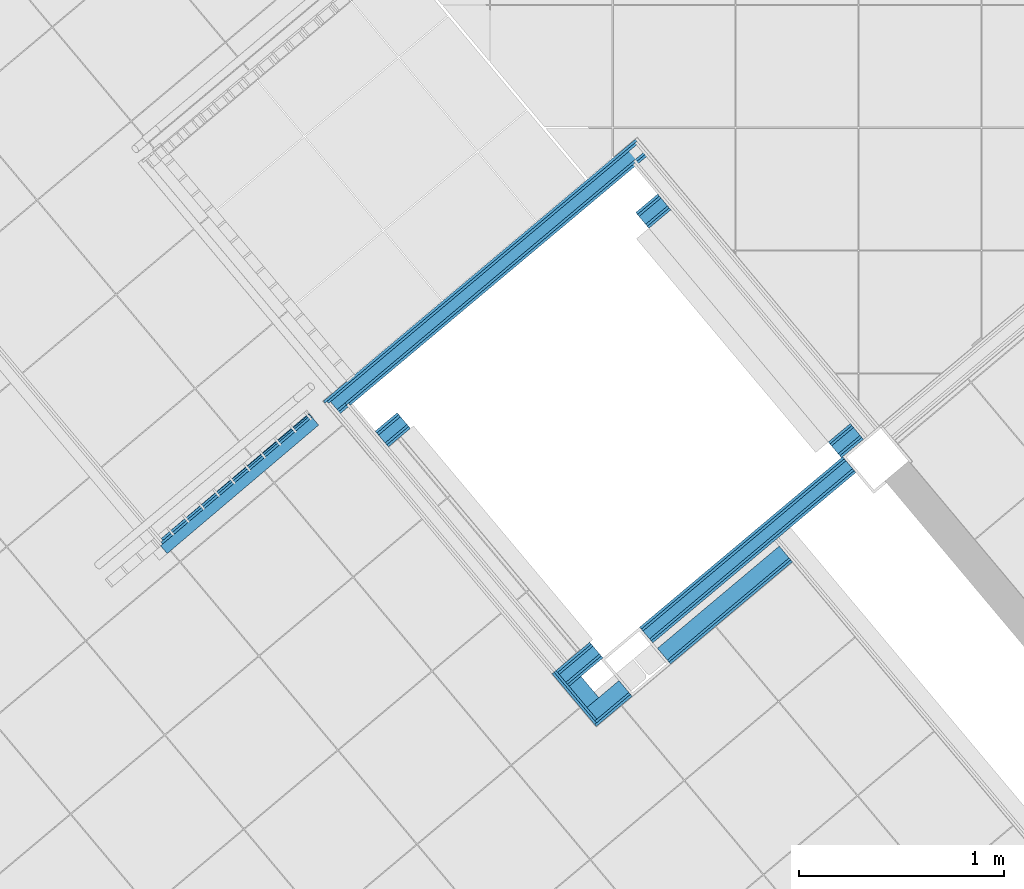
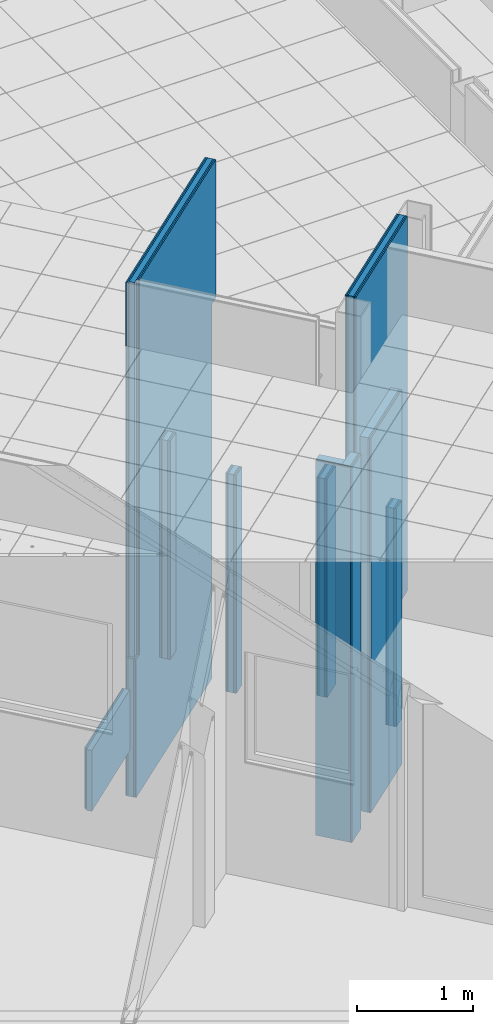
# One storey, part 60 of 321: 42 building element parts, 10 elements without a shape of their own.
"""IFC2X3 building model written with IfcOpenShell, lengths in millimetres."""

from ifc_helpers import new_model, entity, si_unit, converted_unit, derived_unit, money_unit, direction, frame, origin_with_axes, place, context, subcontext, project, spatial, faceted_brep, material, type_object, element, aggregate, save


model = new_model("IFC2X3")

# Units and contexts
model_context = context("Model", 3, precision=0.01, world=origin_with_axes(), true_north=direction((0.0, 1.0)))
plan_context = context("Plan", 3, precision=0.01, world=origin_with_axes(), true_north=direction((0.0, 1.0)))
body_context = subcontext(model_context, "Body", "Model", "MODEL_VIEW")
ifc_project = project(units=[si_unit("LENGTHUNIT", "METRE", prefix="MILLI"), si_unit("AREAUNIT", "SQUARE_METRE"), si_unit("VOLUMEUNIT", "CUBIC_METRE"), converted_unit("PLANEANGLEUNIT", "DEGREE", entity("IfcPlaneAngleMeasure", 0.0174532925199), si_unit("PLANEANGLEUNIT", "RADIAN"), dimensions=[0, 0, 0, 0, 0, 0, 0]), money_unit("EUR"), converted_unit("TIMEUNIT", "Year", entity("IfcTimeMeasure", 31556926.0), si_unit("TIMEUNIT", "SECOND"), dimensions=[0, 0, 1, 0, 0, 0, 0]), si_unit("MASSUNIT", "GRAM", prefix="KILO"), si_unit("THERMODYNAMICTEMPERATUREUNIT", "DEGREE_CELSIUS"), si_unit("LUMINOUSINTENSITYUNIT", "LUMEN"), si_unit("ENERGYUNIT", "JOULE", prefix="MEGA"), derived_unit("THERMALCONDUCTANCEUNIT", [(si_unit("POWERUNIT", "WATT"), 1), (si_unit("LENGTHUNIT", "METRE"), -1), (si_unit("THERMODYNAMICTEMPERATUREUNIT", "KELVIN"), -1)]), derived_unit("SPECIFICHEATCAPACITYUNIT", [(si_unit("ENERGYUNIT", "JOULE"), 1), (si_unit("MASSUNIT", "GRAM", prefix="KILO"), -1), (si_unit("THERMODYNAMICTEMPERATUREUNIT", "KELVIN"), -1)]), derived_unit("MASSDENSITYUNIT", [(si_unit("MASSUNIT", "GRAM", prefix="KILO"), 1), (si_unit("VOLUMEUNIT", "CUBIC_METRE"), -1)])], contexts=[model_context, plan_context])

# Site, building, storey
site_placement = place(None, origin_with_axes())
site = spatial("IfcSite", under=ifc_project, at=site_placement, Name="Fortuinstraat Woensdrecht", CompositionType="ELEMENT")
building_placement = place(site_placement, origin_with_axes())
building = spatial("IfcBuilding", under=site, at=building_placement, Name="IKC Fortuna", CompositionType="ELEMENT")
storey_placement = place(building_placement, frame((0.0, 0.0, 4000.0), z_axis=(0.0, 0.0, 1.0), x_axis=(1.0, 0.0, 0.0)))
storey = spatial("IfcBuildingStorey", under=building, at=storey_placement, Name="01 eerste verdieping", CompositionType="ELEMENT", Elevation=4000.0)

# Wall, building element parts
wall_type_1 = type_object("IfcWallType", Name="MS100 2.50.2A 100", PredefinedType="NOTDEFINED")
wall_1_placement = place(storey_placement, frame((22230.515587, 1704.20917847, -90.0), z_axis=(0.0, 0.0, 1.0), x_axis=(-0.766044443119, -0.642787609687, 0.0)))
wall_1 = element("IfcWall", 1, at=wall_1_placement, inside=storey, type_object=wall_type_1, Name="22_Wand_Binnenwand")
ifc_material_1 = material(Name="Gipsplaat")
building_element_part_1_placement = place(wall_1_placement, origin_with_axes())
building_element_part_1 = element("IfcBuildingElementPart", 2, at=building_element_part_1_placement, material=ifc_material_1, Name="Gipsplaat", context=body_context, shape_type="Brep", body=[
    faceted_brep([(240.007477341, 0.0, 0.0), (240.007477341, -12.5, 0.0), (100.0, -12.5, 0.0), (100.0, 0.0, 0.0), (240.007477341, 0.0, 2290.0), (240.007477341, -12.5, 2290.0), (100.0, -12.5, 2290.0), (100.0, 0.0, 2290.0)], [[[0, 1, 2, 3]], [[0, 4, 5, 1]], [[1, 5, 6, 2]], [[3, 2, 6, 7]], [[4, 0, 3, 7]], [[5, 4, 7, 6]]]),
])
building_element_part_2_placement = place(wall_1_placement, origin_with_axes())
building_element_part_2 = element("IfcBuildingElementPart", 3, at=building_element_part_2_placement, material=ifc_material_1, Name="Gipsplaat", context=body_context, shape_type="Brep", body=[
    faceted_brep([(240.007477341, -12.5, 0.0), (240.007477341, -25.0, 0.0), (100.0, -25.0, 0.0), (100.0, -12.5, 0.0), (240.007477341, -12.5, 2290.0), (240.007477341, -25.0, 2290.0), (100.0, -25.0, 2290.0), (100.0, -12.5, 2290.0)], [[[0, 1, 2, 3]], [[0, 4, 5, 1]], [[1, 5, 6, 2]], [[3, 2, 6, 7]], [[4, 0, 3, 7]], [[5, 4, 7, 6]]]),
])
ifc_material_2 = material(Name="Isolatie - Steenwol LSW")
building_element_part_3_placement = place(wall_1_placement, origin_with_axes())
building_element_part_3 = element("IfcBuildingElementPart", 4, at=building_element_part_3_placement, material=ifc_material_2, Name="Isolatie - Steenwol LSW", context=body_context, shape_type="Brep", body=[
    faceted_brep([(240.007477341, -25.0, 0.0), (240.007477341, -75.0, 0.0), (100.0, -75.0, 0.0), (100.0, -25.0, 0.0), (240.007477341, -25.0, 2290.0), (240.007477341, -75.0, 2290.0), (100.0, -75.0, 2290.0), (100.0, -25.0, 2290.0)], [[[0, 1, 2, 3]], [[0, 4, 5, 1]], [[1, 5, 6, 2]], [[3, 2, 6, 7]], [[4, 0, 3, 7]], [[5, 4, 7, 6]]]),
])
building_element_part_4_placement = place(wall_1_placement, origin_with_axes())
building_element_part_4 = element("IfcBuildingElementPart", 5, at=building_element_part_4_placement, material=ifc_material_1, Name="Gipsplaat", context=body_context, shape_type="Brep", body=[
    faceted_brep([(240.007477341, -75.0, 0.0), (240.007477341, -87.5, 0.0), (100.0, -87.5, 0.0), (100.0, -75.0, 0.0), (240.007477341, -75.0, 2290.0), (240.007477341, -87.5, 2290.0), (100.0, -87.5, 2290.0), (100.0, -75.0, 2290.0)], [[[0, 1, 2, 3]], [[0, 4, 5, 1]], [[1, 5, 6, 2]], [[3, 2, 6, 7]], [[4, 0, 3, 7]], [[5, 4, 7, 6]]]),
])
building_element_part_5_placement = place(wall_1_placement, origin_with_axes())
building_element_part_5 = element("IfcBuildingElementPart", 6, at=building_element_part_5_placement, material=ifc_material_1, Name="Gipsplaat", context=body_context, shape_type="Brep", body=[
    faceted_brep([(240.007477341, -87.5, 0.0), (240.007477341, -100.0, 0.0), (100.0, -100.0, 0.0), (100.0, -87.5, 0.0), (240.007477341, -87.5, 2290.0), (240.007477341, -100.0, 2290.0), (100.0, -100.0, 2290.0), (100.0, -87.5, 2290.0)], [[[0, 1, 2, 3]], [[0, 4, 5, 1]], [[1, 5, 6, 2]], [[3, 2, 6, 7]], [[4, 0, 3, 7]], [[5, 4, 7, 6]]]),
])
aggregate(wall_1, [building_element_part_1, building_element_part_2, building_element_part_3, building_element_part_4, building_element_part_5])

wall_2_placement = place(storey_placement, frame((21989.3627054, 1991.60399148, -90.0), z_axis=(0.0, 0.0, 1.0), x_axis=(-0.766044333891, -0.642787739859, 0.0)))
wall_2 = element("IfcWall", 7, at=wall_2_placement, inside=storey, type_object=wall_type_1, Name="22_Wand_Binnenwand")
building_element_part_6_placement = place(wall_2_placement, origin_with_axes())
building_element_part_6 = element("IfcBuildingElementPart", 8, at=building_element_part_6_placement, material=ifc_material_1, Name="Gipsplaat", context=body_context, shape_type="Brep", body=[
    faceted_brep([(1912.50013237, 87.5, 5380.0), (1912.50013368, 99.9999999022, 5380.0), (0.0, 99.9999977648, 5380.0), (0.0, 87.5, 5380.0), (1912.50013368, 99.9999977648, 1450.0), (1912.50013237, 87.5, 1450.0), (2000.00013368, 99.9999977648, 1450.0), (2000.00012321, 99.9999977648, 0.0), (100.000016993, 99.9999998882, 0.0), (100.000016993, 99.9999977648, 3930.0), (1.69928071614e-05, 99.9999977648, 3930.0), (1.48687071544e-05, 87.5, 3930.0), (100.000014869, 87.5, 3930.0), (100.000014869, 87.5, 0.0), (2000.00012321, 87.5, 0.0), (2000.00013237, 87.5, 1450.0)], [[[0, 1, 2, 3]], [[4, 1, 0, 5]], [[4, 6, 7, 8, 9, 10, 2, 1]], [[10, 11, 3, 2]], [[5, 0, 3, 11, 12, 13, 14, 15]], [[4, 5, 15, 6]], [[6, 15, 14, 7]], [[13, 8, 7, 14]], [[9, 8, 13, 12]], [[10, 9, 12, 11]]]),
])
building_element_part_7_placement = place(wall_2_placement, origin_with_axes())
building_element_part_7 = element("IfcBuildingElementPart", 9, at=building_element_part_7_placement, material=ifc_material_1, Name="Gipsplaat", context=body_context, shape_type="Brep", body=[
    faceted_brep([(1925.00013106, 75.0000001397, 5380.0), (1925.00013237, 87.5, 5380.0), (0.0, 87.5, 5380.0), (0.0, 75.0000037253, 5380.0), (1925.00013237, 87.5, 1450.0), (1925.00013106, 75.0000037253, 1450.0), (2000.00013237, 87.5, 1450.0), (2000.00012321, 87.5, 0.0), (87.5000148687, 87.5, 0.0), (87.5000148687, 87.5, 3930.0), (1.48687071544e-05, 87.5, 3930.0), (1.27446071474e-05, 75.0000027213, 3930.0), (87.5000127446, 75.0000037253, 3930.0), (87.5000127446, 75.000000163, 0.0), (2000.00012321, 75.0000037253, 0.0), (2000.00013106, 75.0000027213, 1450.0)], [[[0, 1, 2, 3]], [[4, 1, 0, 5]], [[4, 6, 7, 8, 9, 10, 2, 1]], [[10, 11, 3, 2]], [[5, 0, 3, 11, 12, 13, 14, 15]], [[4, 5, 15, 6]], [[6, 15, 14, 7]], [[13, 8, 7, 14]], [[9, 8, 13, 12]], [[10, 9, 12, 11]]]),
])
building_element_part_8_placement = place(wall_2_placement, origin_with_axes())
building_element_part_8 = element("IfcBuildingElementPart", 10, at=building_element_part_8_placement, material=ifc_material_2, Name="Isolatie - Steenwol LSW", context=body_context, shape_type="Brep", body=[
    faceted_brep([(1975.00012583, 24.9999999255, 5380.0), (1975.00013106, 75.0000000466, 5380.0), (0.0, 75.0000037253, 5380.0), (0.0, 24.9999940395, 5380.0), (1975.00013106, 75.0000037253, 1450.0), (1975.00012583, 24.9999940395, 1450.0), (2000.00013106, 75.0000027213, 1450.0), (2000.00012321, 75.0000037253, 0.0), (75.0000127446, 75.0000001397, 0.0), (75.0000127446, 75.0000037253, 3930.0), (1.27446071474e-05, 75.0000027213, 3930.0), (4.24820001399e-06, 24.999995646, 3930.0), (75.0000042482, 24.9999940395, 3930.0), (75.0000042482, 24.9999997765, 0.0), (2000.00012321, 24.9999940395, 0.0), (2000.00012583, 24.999995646, 1450.0)], [[[0, 1, 2, 3]], [[4, 1, 0, 5]], [[4, 6, 7, 8, 9, 10, 2, 1]], [[10, 11, 3, 2]], [[5, 0, 3, 11, 12, 13, 14, 15]], [[4, 5, 15, 6]], [[6, 15, 14, 7]], [[13, 8, 7, 14]], [[9, 8, 13, 12]], [[10, 9, 12, 11]]]),
])
building_element_part_9_placement = place(wall_2_placement, origin_with_axes())
building_element_part_9 = element("IfcBuildingElementPart", 11, at=building_element_part_9_placement, material=ifc_material_1, Name="Gipsplaat", context=body_context, shape_type="Brep", body=[
    faceted_brep([(1987.50012452, 12.5, 5380.0), (1987.50012583, 24.9999999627, 5380.0), (0.0, 24.9999940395, 5380.0), (0.0, 12.5, 5380.0), (1987.50012583, 24.9999940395, 1450.0), (1987.50012452, 12.5, 1450.0), (2000.00012583, 24.999995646, 1450.0), (2000.00012321, 24.9999940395, 0.0), (25.0000042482, 24.9999999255, 0.0), (25.0000042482, 24.9999940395, 3930.0), (4.24820001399e-06, 24.999995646, 3930.0), (2.12410000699e-06, 12.5, 3930.0), (25.0000021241, 12.5, 3930.0), (25.0000021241, 12.5, 0.0), (2000.00012321, 12.5, 0.0), (2000.00012452, 12.5, 1450.0)], [[[0, 1, 2, 3]], [[4, 1, 0, 5]], [[4, 6, 7, 8, 9, 10, 2, 1]], [[10, 11, 3, 2]], [[5, 0, 3, 11, 12, 13, 14, 15]], [[6, 4, 5, 15]], [[6, 15, 14, 7]], [[13, 8, 7, 14]], [[9, 8, 13, 12]], [[10, 9, 12, 11]]]),
])
building_element_part_10_placement = place(wall_2_placement, origin_with_axes())
building_element_part_10 = element("IfcBuildingElementPart", 12, at=building_element_part_10_placement, material=ifc_material_1, Name="Gipsplaat", context=body_context, shape_type="Brep", body=[
    faceted_brep([(12.5000021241, 12.5, 0.0), (12.5000021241, 12.5, 3930.0), (2.12410355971e-06, 12.5, 3930.0), (0.0, 12.5, 5380.0), (2000.00012452, 12.5, 5380.0), (2000.00012321, 12.5, 0.0), (12.5, 0.0, 0.0), (12.5, 0.0, 3930.0), (0.0, 0.0, 3930.0), (0.0, 0.0, 5380.0), (2000.00012321, 0.0, 5380.0), (2000.00012321, 0.0, 1450.0), (2000.00012321, 0.0, 0.0)], [[[0, 1, 2, 3, 4, 5]], [[1, 0, 6, 7]], [[8, 2, 1, 7]], [[2, 8, 9, 3]], [[4, 3, 9, 10]], [[10, 11, 12, 5, 4]], [[6, 0, 5, 12]], [[7, 6, 12, 11, 10, 9, 8]]]),
])
aggregate(wall_2, [building_element_part_6, building_element_part_7, building_element_part_8, building_element_part_9, building_element_part_10])

wall_3_placement = place(storey_placement, frame((23105.9923114, 660.856646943, -90.0), z_axis=(0.0, 0.0, 1.0), x_axis=(-0.766044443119, -0.642787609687, 0.0)))
wall_3 = element("IfcWall", 13, at=wall_3_placement, inside=storey, type_object=wall_type_1, Name="22_Wand_Binnenwand")
building_element_part_11_placement = place(wall_3_placement, origin_with_axes())
building_element_part_11 = element("IfcBuildingElementPart", 14, at=building_element_part_11_placement, material=ifc_material_1, Name="Gipsplaat", context=body_context, shape_type="Brep", body=[
    faceted_brep([(240.007477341, 87.5, 2290.0), (240.007477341, 100.0, 2290.0), (100.0, 100.0, 2290.0), (100.0, 87.5, 2290.0), (240.007477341, 87.5, 0.0), (240.007477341, 100.0, 0.0), (100.0, 100.0, 0.0), (100.0, 87.5, 0.0)], [[[0, 1, 2, 3]], [[0, 4, 5, 1]], [[1, 5, 6, 2]], [[3, 2, 6, 7]], [[4, 0, 3, 7]], [[5, 4, 7, 6]]]),
])
building_element_part_12_placement = place(wall_3_placement, origin_with_axes())
building_element_part_12 = element("IfcBuildingElementPart", 15, at=building_element_part_12_placement, material=ifc_material_1, Name="Gipsplaat", context=body_context, shape_type="Brep", body=[
    faceted_brep([(240.007477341, 75.0, 2290.0), (240.007477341, 87.5, 2290.0), (100.0, 87.5, 2290.0), (100.0, 75.0, 2290.0), (240.007477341, 75.0, 0.0), (240.007477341, 87.5, 0.0), (100.0, 87.5, 0.0), (100.0, 75.0, 0.0)], [[[0, 1, 2, 3]], [[0, 4, 5, 1]], [[1, 5, 6, 2]], [[3, 2, 6, 7]], [[4, 0, 3, 7]], [[5, 4, 7, 6]]]),
])
building_element_part_13_placement = place(wall_3_placement, origin_with_axes())
building_element_part_13 = element("IfcBuildingElementPart", 16, at=building_element_part_13_placement, material=ifc_material_2, Name="Isolatie - Steenwol LSW", context=body_context, shape_type="Brep", body=[
    faceted_brep([(240.007477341, 25.0, 2290.0), (240.007477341, 75.0, 2290.0), (100.0, 75.0, 2290.0), (100.0, 25.0, 2290.0), (240.007477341, 25.0, 0.0), (240.007477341, 75.0, 0.0), (100.0, 75.0, 0.0), (100.0, 25.0, 0.0)], [[[0, 1, 2, 3]], [[0, 4, 5, 1]], [[1, 5, 6, 2]], [[3, 2, 6, 7]], [[4, 0, 3, 7]], [[5, 4, 7, 6]]]),
])
building_element_part_14_placement = place(wall_3_placement, origin_with_axes())
building_element_part_14 = element("IfcBuildingElementPart", 17, at=building_element_part_14_placement, material=ifc_material_1, Name="Gipsplaat", context=body_context, shape_type="Brep", body=[
    faceted_brep([(240.007477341, 12.5, 2290.0), (240.007477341, 25.0, 2290.0), (100.0, 25.0, 2290.0), (100.0, 12.5, 2290.0), (240.007477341, 12.5, 0.0), (240.007477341, 25.0, 0.0), (100.0, 25.0, 0.0), (100.0, 12.5, 0.0)], [[[0, 1, 2, 3]], [[0, 4, 5, 1]], [[1, 5, 6, 2]], [[3, 2, 6, 7]], [[4, 0, 3, 7]], [[5, 4, 7, 6]]]),
])
building_element_part_15_placement = place(wall_3_placement, origin_with_axes())
building_element_part_15 = element("IfcBuildingElementPart", 18, at=building_element_part_15_placement, material=ifc_material_1, Name="Gipsplaat", context=body_context, shape_type="Brep", body=[
    faceted_brep([(240.007477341, 0.0, 2290.0), (240.007477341, 12.5, 2290.0), (100.0, 12.5, 2290.0), (100.0, 0.0, 2290.0), (240.007477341, 0.0, 0.0), (240.007477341, 12.5, 0.0), (100.0, 12.5, 0.0), (100.0, 0.0, 0.0)], [[[0, 1, 2, 3]], [[0, 4, 5, 1]], [[1, 5, 6, 2]], [[3, 2, 6, 7]], [[4, 0, 3, 7]], [[5, 4, 7, 6]]]),
])
aggregate(wall_3, [building_element_part_11, building_element_part_12, building_element_part_13, building_element_part_14, building_element_part_15])

wall_4_placement = place(storey_placement, frame((22041.6239314, -445.035849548, 1360.0), z_axis=(0.0, 0.0, 1.0), x_axis=(0.766044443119, 0.642787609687, 0.0)))
wall_4 = element("IfcWall", 19, at=wall_4_placement, inside=storey, type_object=wall_type_1, Name="22_Wand_Binnenwand")
building_element_part_16_placement = place(wall_4_placement, origin_with_axes())
building_element_part_16 = element("IfcBuildingElementPart", 20, at=building_element_part_16_placement, material=ifc_material_1, Name="Gipsplaat", context=body_context, shape_type="Brep", body=[
    faceted_brep([(1293.70006611, 50.0, 3930.0), (1293.70006611, 62.5, 3930.0), (0.0, 62.5, 3930.0), (0.0, 50.0, 3930.0), (1293.70006611, 50.0, 0.0), (1293.70006611, 62.5, 0.0), (0.0, 62.5, 0.0), (0.0, 50.0, 0.0)], [[[0, 1, 2, 3]], [[0, 4, 5, 1]], [[1, 5, 6, 2]], [[3, 2, 6, 7]], [[4, 0, 3, 7]], [[5, 4, 7, 6]]]),
])
building_element_part_17_placement = place(wall_4_placement, origin_with_axes())
building_element_part_17 = element("IfcBuildingElementPart", 21, at=building_element_part_17_placement, material=ifc_material_1, Name="Gipsplaat", context=body_context, shape_type="Brep", body=[
    faceted_brep([(1293.70006611, 37.5, 3930.0), (1293.70006611, 50.0, 3930.0), (0.0, 50.0, 3930.0), (0.0, 37.5, 3930.0), (1293.70006611, 37.5, 0.0), (1293.70006611, 50.0, 0.0), (0.0, 50.0, 0.0), (0.0, 37.5, 0.0)], [[[0, 1, 2, 3]], [[0, 4, 5, 1]], [[1, 5, 6, 2]], [[3, 2, 6, 7]], [[4, 0, 3, 7]], [[5, 4, 7, 6]]]),
])
building_element_part_18_placement = place(wall_4_placement, origin_with_axes())
building_element_part_18 = element("IfcBuildingElementPart", 22, at=building_element_part_18_placement, material=ifc_material_2, Name="Isolatie - Steenwol LSW", context=body_context, shape_type="Brep", body=[
    faceted_brep([(1293.70006611, -12.5, 3930.0), (1293.70006611, 37.5, 3930.0), (0.0, 37.5, 3930.0), (0.0, -12.5, 3930.0), (1293.70006611, -12.5, 0.0), (1293.70006611, 37.5, 0.0), (0.0, 37.5, 0.0), (0.0, -12.5, 0.0)], [[[0, 1, 2, 3]], [[0, 4, 5, 1]], [[1, 5, 6, 2]], [[3, 2, 6, 7]], [[4, 0, 3, 7]], [[5, 4, 7, 6]]]),
])
building_element_part_19_placement = place(wall_4_placement, origin_with_axes())
building_element_part_19 = element("IfcBuildingElementPart", 23, at=building_element_part_19_placement, material=ifc_material_1, Name="Gipsplaat", context=body_context, shape_type="Brep", body=[
    faceted_brep([(1293.70006611, -25.0, 3930.0), (1293.70006611, -12.5, 3930.0), (0.0, -12.5, 3930.0), (0.0, -25.0, 3930.0), (1293.70006611, -25.0, 0.0), (1293.70006611, -12.5, 0.0), (0.0, -12.5, 0.0), (0.0, -25.0, 0.0)], [[[0, 1, 2, 3]], [[0, 4, 5, 1]], [[1, 5, 6, 2]], [[3, 2, 6, 7]], [[4, 0, 3, 7]], [[5, 4, 7, 6]]]),
])
building_element_part_20_placement = place(wall_4_placement, origin_with_axes())
building_element_part_20 = element("IfcBuildingElementPart", 24, at=building_element_part_20_placement, material=ifc_material_1, Name="Gipsplaat", context=body_context, shape_type="Brep", body=[
    faceted_brep([(1293.70006611, -37.5, 3930.0), (1293.70006611, -25.0, 3930.0), (0.0, -25.0, 3930.0), (0.0, -37.5, 3930.0), (1293.70006611, -37.5, 0.0), (1293.70006611, -25.0, 0.0), (0.0, -25.0, 0.0), (0.0, -37.5, 0.0)], [[[0, 1, 2, 3]], [[0, 4, 5, 1]], [[1, 5, 6, 2]], [[3, 2, 6, 7]], [[4, 0, 3, 7]], [[5, 4, 7, 6]]]),
])
aggregate(wall_4, [building_element_part_16, building_element_part_17, building_element_part_18, building_element_part_19, building_element_part_20])

wall_5_placement = place(storey_placement, frame((20698.426631, 418.63388862, 1360.0), z_axis=(0.0, 0.0, 1.0), x_axis=(0.766044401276, 0.642787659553, 0.0)))
wall_5 = element("IfcWall", 25, at=wall_5_placement, inside=storey, type_object=wall_type_1, Name="22_Wand_Binnenwand")
building_element_part_21_placement = place(wall_5_placement, origin_with_axes())
building_element_part_21 = element("IfcBuildingElementPart", 26, at=building_element_part_21_placement, material=ifc_material_1, Name="Gipsplaat", context=body_context, shape_type="Brep", body=[
    faceted_brep([(239.992621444, 87.5, 2290.0), (239.992621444, 100.0, 2290.0), (100.000000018, 100.0, 2290.0), (100.000000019, 87.5, 2290.0), (239.992621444, 87.5, 0.0), (239.992621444, 100.0, 0.0), (100.000000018, 100.0, 0.0), (100.000000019, 87.5, 0.0)], [[[0, 1, 2, 3]], [[0, 4, 5, 1]], [[1, 5, 6, 2]], [[3, 2, 6, 7]], [[4, 0, 3, 7]], [[5, 4, 7, 6]]]),
])
building_element_part_22_placement = place(wall_5_placement, origin_with_axes())
building_element_part_22 = element("IfcBuildingElementPart", 27, at=building_element_part_22_placement, material=ifc_material_1, Name="Gipsplaat", context=body_context, shape_type="Brep", body=[
    faceted_brep([(239.992621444, 75.0, 2290.0), (239.992621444, 87.5, 2290.0), (100.000000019, 87.5, 2290.0), (100.00000002, 75.0, 2290.0), (239.992621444, 75.0, 0.0), (239.992621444, 87.5, 0.0), (100.000000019, 87.5, 0.0), (100.00000002, 75.0, 0.0)], [[[0, 1, 2, 3]], [[0, 4, 5, 1]], [[1, 5, 6, 2]], [[3, 2, 6, 7]], [[4, 0, 3, 7]], [[5, 4, 7, 6]]]),
])
building_element_part_23_placement = place(wall_5_placement, origin_with_axes())
building_element_part_23 = element("IfcBuildingElementPart", 28, at=building_element_part_23_placement, material=ifc_material_2, Name="Isolatie - Steenwol LSW", context=body_context, shape_type="Brep", body=[
    faceted_brep([(239.992621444, 25.0, 2290.0), (239.992621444, 75.0, 2290.0), (100.00000002, 75.0, 2290.0), (100.000000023, 25.0, 2290.0), (239.992621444, 25.0, 0.0), (239.992621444, 75.0, 0.0), (100.00000002, 75.0, 0.0), (100.000000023, 25.0, 0.0)], [[[0, 1, 2, 3]], [[0, 4, 5, 1]], [[1, 5, 6, 2]], [[3, 2, 6, 7]], [[4, 0, 3, 7]], [[5, 4, 7, 6]]]),
])
building_element_part_24_placement = place(wall_5_placement, origin_with_axes())
building_element_part_24 = element("IfcBuildingElementPart", 29, at=building_element_part_24_placement, material=ifc_material_1, Name="Gipsplaat", context=body_context, shape_type="Brep", body=[
    faceted_brep([(239.992621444, 12.5, 2290.0), (239.992621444, 25.0, 2290.0), (100.000000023, 25.0, 2290.0), (100.000000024, 12.5, 2290.0), (239.992621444, 12.5, 0.0), (239.992621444, 25.0, 0.0), (100.000000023, 25.0, 0.0), (100.000000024, 12.5, 0.0)], [[[0, 1, 2, 3]], [[0, 4, 5, 1]], [[1, 5, 6, 2]], [[3, 2, 6, 7]], [[4, 0, 3, 7]], [[5, 4, 7, 6]]]),
])
building_element_part_25_placement = place(wall_5_placement, origin_with_axes())
building_element_part_25 = element("IfcBuildingElementPart", 30, at=building_element_part_25_placement, material=ifc_material_1, Name="Gipsplaat", context=body_context, shape_type="Brep", body=[
    faceted_brep([(239.992621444, 0.0, 2290.0), (239.992621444, 12.5, 2290.0), (100.000000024, 12.5, 2290.0), (100.000000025, 0.0, 2290.0), (239.992621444, 0.0, 0.0), (239.992621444, 12.5, 0.0), (100.000000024, 12.5, 0.0), (100.000000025, 0.0, 0.0)], [[[0, 1, 2, 3]], [[0, 4, 5, 1]], [[1, 5, 6, 2]], [[3, 2, 6, 7]], [[4, 0, 3, 7]], [[5, 4, 7, 6]]]),
])
aggregate(wall_5, [building_element_part_21, building_element_part_22, building_element_part_23, building_element_part_24, building_element_part_25])

wall_6_placement = place(storey_placement, frame((21573.9034244, -624.718587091, 1360.0), z_axis=(0.0, 0.0, 1.0), x_axis=(0.766044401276, 0.642787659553, 0.0)))
wall_6 = element("IfcWall", 31, at=wall_6_placement, inside=storey, type_object=wall_type_1, Name="22_Wand_Binnenwand")
building_element_part_26_placement = place(wall_6_placement, origin_with_axes())
building_element_part_26 = element("IfcBuildingElementPart", 32, at=building_element_part_26_placement, material=ifc_material_1, Name="Gipsplaat", context=body_context, shape_type="Brep", body=[
    faceted_brep([(25.0000000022, -7.67350627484e-08, 2290.0), (25.0001674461, -12.5, 2290.0), (239.992532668, -12.5, 2290.0), (239.992532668, 0.0, 2290.0), (25.0001674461, -12.5, 0.0), (25.0000000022, -7.67350627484e-08, 0.0), (239.992532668, -12.5, 0.0), (239.992532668, 0.0, 0.0)], [[[0, 1, 2, 3]], [[4, 1, 0, 5]], [[1, 4, 6, 2]], [[2, 6, 7, 3]], [[5, 0, 3, 7]], [[4, 5, 7, 6]]]),
])
building_element_part_27_placement = place(wall_6_placement, origin_with_axes())
building_element_part_27 = element("IfcBuildingElementPart", 33, at=building_element_part_27_placement, material=ifc_material_1, Name="Gipsplaat", context=body_context, shape_type="Brep", body=[
    faceted_brep([(25.0001674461, -12.5, 2290.0), (25.0003348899, -25.0, 2290.0), (239.992532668, -25.0, 2290.0), (239.992532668, -12.5, 2290.0), (25.0003348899, -25.0, 0.0), (25.0001674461, -12.5, 0.0), (239.992532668, -25.0, 0.0), (239.992532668, -12.5, 0.0)], [[[0, 1, 2, 3]], [[4, 1, 0, 5]], [[1, 4, 6, 2]], [[2, 6, 7, 3]], [[5, 0, 3, 7]], [[4, 5, 7, 6]]]),
])
building_element_part_28_placement = place(wall_6_placement, origin_with_axes())
building_element_part_28 = element("IfcBuildingElementPart", 34, at=building_element_part_28_placement, material=ifc_material_2, Name="Isolatie - Steenwol LSW", context=body_context, shape_type="Brep", body=[
    faceted_brep([(25.0003348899, -25.0, 2290.0), (25.0010046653, -75.0, 2290.0), (239.992532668, -75.0, 2290.0), (239.992532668, -25.0, 2290.0), (25.0010046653, -75.0, 0.0), (25.0003348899, -25.0, 0.0), (239.992532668, -75.0, 0.0), (239.992532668, -25.0, 0.0)], [[[0, 1, 2, 3]], [[4, 1, 0, 5]], [[1, 4, 6, 2]], [[2, 6, 7, 3]], [[5, 0, 3, 7]], [[4, 5, 7, 6]]]),
])
building_element_part_29_placement = place(wall_6_placement, origin_with_axes())
building_element_part_29 = element("IfcBuildingElementPart", 35, at=building_element_part_29_placement, material=ifc_material_1, Name="Gipsplaat", context=body_context, shape_type="Brep", body=[
    faceted_brep([(25.0010046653, -75.0, 2290.0), (25.0011721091, -87.5, 2290.0), (239.992532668, -87.5, 2290.0), (239.992532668, -75.0, 2290.0), (25.0011721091, -87.5, 0.0), (25.0010046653, -75.0, 0.0), (239.992532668, -87.5, 0.0), (239.992532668, -75.0, 0.0)], [[[0, 1, 2, 3]], [[4, 1, 0, 5]], [[1, 4, 6, 2]], [[2, 6, 7, 3]], [[5, 0, 3, 7]], [[4, 5, 7, 6]]]),
])
building_element_part_30_placement = place(wall_6_placement, origin_with_axes())
building_element_part_30 = element("IfcBuildingElementPart", 36, at=building_element_part_30_placement, material=ifc_material_1, Name="Gipsplaat", context=body_context, shape_type="Brep", body=[
    faceted_brep([(25.0011721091, -87.5, 2290.0), (25.001339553, -100.0, 2290.0), (239.992532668, -100.0, 2290.0), (239.992532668, -87.5, 2290.0), (25.001339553, -100.0, 0.0), (25.0011721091, -87.5, 0.0), (239.992532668, -100.0, 0.0), (239.992532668, -87.5, 0.0)], [[[0, 1, 2, 3]], [[4, 1, 0, 5]], [[1, 4, 6, 2]], [[2, 6, 7, 3]], [[5, 0, 3, 7]], [[4, 5, 7, 6]]]),
])
aggregate(wall_6, [building_element_part_26, building_element_part_27, building_element_part_28, building_element_part_29, building_element_part_30])

wall_type_2 = type_object("IfcWallType", Name="MS100 75.2A 100", PredefinedType="NOTDEFINED")
wall_7_placement = place(storey_placement, frame((22747.1040274, -78.2298213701, -90.0), z_axis=(0.0, 0.0, 1.0), x_axis=(-0.766031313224, -0.642803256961, 0.0)))
wall_7 = element("IfcWall", 37, at=wall_7_placement, inside=storey, type_object=wall_type_2, Name="22_Wand_Binnenwand")
building_element_part_31_placement = place(wall_7_placement, origin_with_axes())
building_element_part_31 = element("IfcBuildingElementPart", 38, at=building_element_part_31_placement, material=ifc_material_1, Name="Gipsplaat", context=body_context, shape_type="Brep", body=[
    faceted_brep([(0.0, -2.23517737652e-06, 1450.0), (0.0, 0.0, 3930.0), (776.207477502, 0.0, 3930.0), (776.207477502, 0.0, 0.0), (0.0, -2.23517737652e-06, 0.0), (-0.000255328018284, -12.4999999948, 1450.0), (-0.000255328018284, -12.5, 3930.0), (0.0, -12.5, 0.0), (776.207477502, -12.5, 3930.0), (776.207477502, -12.5, 0.0)], [[[0, 1, 2, 3, 4]], [[5, 6, 1, 0, 4, 7]], [[1, 6, 8, 2]], [[3, 2, 8, 9]], [[9, 7, 4, 3]], [[6, 5, 7, 9, 8]]]),
])
building_element_part_32_placement = place(wall_7_placement, origin_with_axes())
building_element_part_32 = element("IfcBuildingElementPart", 39, at=building_element_part_32_placement, material=ifc_material_1, Name="Gipsplaat", context=body_context, shape_type="Brep", body=[
    faceted_brep([(-0.000255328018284, -12.4999999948, 1450.0), (-0.000255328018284, -12.5, 3930.0), (776.207477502, -12.5, 3930.0), (776.207477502, -12.5, 0.0), (0.0, -12.5, 0.0), (-0.000510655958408, -24.9999962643, 1450.0), (-0.000510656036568, -25.0, 3930.0), (0.0, -24.9999962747, 0.0), (776.207477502, -25.0, 3930.0), (776.207477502, -25.0, 0.0)], [[[0, 1, 2, 3, 4]], [[5, 6, 1, 0, 4, 7]], [[1, 6, 8, 2]], [[3, 2, 8, 9]], [[9, 7, 4, 3]], [[6, 5, 7, 9, 8]]]),
])
building_element_part_33_placement = place(wall_7_placement, origin_with_axes())
building_element_part_33 = element("IfcBuildingElementPart", 40, at=building_element_part_33_placement, material=ifc_material_2, Name="Isolatie - Steenwol LSW", context=body_context, shape_type="Brep", body=[
    faceted_brep([(-0.000510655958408, -24.9999962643, 1450.0), (-0.000510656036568, -25.0, 3930.0), (776.207477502, -25.0, 3930.0), (776.207477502, -25.0, 0.0), (0.0, -24.9999962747, 0.0), (-0.00204262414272, -99.9999999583, 1450.0), (-0.00204262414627, -100.0, 3930.0), (0.0, -100.0, 0.0), (776.207477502, -100.0, 3930.0), (776.207477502, -100.0, 0.0)], [[[0, 1, 2, 3, 4]], [[5, 6, 1, 0, 4, 7]], [[1, 6, 8, 2]], [[3, 2, 8, 9]], [[9, 7, 4, 3]], [[6, 5, 7, 9, 8]]]),
])
aggregate(wall_7, [building_element_part_31, building_element_part_32, building_element_part_33])

wall_8_placement = place(storey_placement, frame((21964.8239055, -734.66148036, -90.0), z_axis=(0.0, 0.0, 1.0), x_axis=(-0.766081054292, -0.642743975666, 0.0)))
wall_8 = element("IfcWall", 41, at=wall_8_placement, inside=storey, type_object=wall_type_2, Name="22_Wand_Binnenwand")
building_element_part_34_placement = place(wall_8_placement, origin_with_axes())
building_element_part_34 = element("IfcBuildingElementPart", 42, at=building_element_part_34_placement, material=ifc_material_1, Name="Gipsplaat", context=body_context, shape_type="Brep", body=[
    faceted_brep([(228.788017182, 0.0, 3930.0), (0.0, 0.0, 3930.0), (0.0, -12.5, 3930.0), (228.788897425, -12.5, 3930.0), (228.788017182, 0.0, 0.0), (0.0, 0.0, 0.0), (0.0, -12.5, 0.0), (228.788897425, -12.5, 0.0)], [[[0, 1, 2, 3]], [[4, 5, 1, 0]], [[2, 1, 5, 6]], [[3, 2, 6, 7]], [[3, 7, 4, 0]], [[7, 6, 5, 4]]]),
])
building_element_part_35_placement = place(wall_8_placement, origin_with_axes())
building_element_part_35 = element("IfcBuildingElementPart", 43, at=building_element_part_35_placement, material=ifc_material_1, Name="Gipsplaat", context=body_context, shape_type="Brep", body=[
    faceted_brep([(216.288897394, -12.5, 3930.0), (0.0, -12.5, 3930.0), (0.0, -25.0, 3930.0), (216.289777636, -25.0, 3930.0), (216.288897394, -12.5, 0.0), (0.0, -12.5, 0.0), (0.0, -25.0, 0.0), (216.289777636, -25.0, 0.0)], [[[0, 1, 2, 3]], [[4, 5, 1, 0]], [[2, 1, 5, 6]], [[3, 2, 6, 7]], [[3, 7, 4, 0]], [[7, 6, 5, 4]]]),
])
building_element_part_36_placement = place(wall_8_placement, origin_with_axes())
building_element_part_36 = element("IfcBuildingElementPart", 44, at=building_element_part_36_placement, material=ifc_material_2, Name="Isolatie - Steenwol LSW", context=body_context, shape_type="Brep", body=[
    faceted_brep([(203.789777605, -25.0, 3930.0), (0.0, -25.0, 3930.0), (0.0, -100.0, 3930.0), (203.795059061, -100.0, 3930.0), (203.789777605, -25.0, 0.0), (0.0, -25.0, 0.0), (0.0, -100.0, 0.0), (203.795059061, -100.0, 0.0)], [[[0, 1, 2, 3]], [[4, 5, 1, 0]], [[2, 1, 5, 6]], [[3, 2, 6, 7]], [[3, 7, 4, 0]], [[7, 6, 5, 4]]]),
])
aggregate(wall_8, [building_element_part_34, building_element_part_35, building_element_part_36])

wall_9_placement = place(storey_placement, frame((21789.5537401, -881.713600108, -90.0), z_axis=(0.0, 0.0, 1.0), x_axis=(-0.642797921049, 0.76603579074, 0.0)))
wall_9 = element("IfcWall", 45, at=wall_9_placement, inside=storey, type_object=wall_type_2, Name="22_Wand_Binnenwand")
building_element_part_37_placement = place(wall_9_placement, origin_with_axes())
building_element_part_37 = element("IfcBuildingElementPart", 46, at=building_element_part_37_placement, material=ifc_material_1, Name="Gipsplaat", context=body_context, shape_type="Brep", body=[
    faceted_brep([(12.500000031, 0.0, 3930.0), (12.4991197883, -12.5, 3930.0), (335.486952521, -12.5, 3930.0), (335.486952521, 0.0, 3930.0), (12.500000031, 0.0, 0.0), (12.4991197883, -12.5, 0.0), (335.486952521, -12.5, 0.0), (335.486952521, 0.0, 0.0)], [[[0, 1, 2, 3]], [[1, 0, 4, 5]], [[1, 5, 6, 2]], [[7, 3, 2, 6]], [[4, 0, 3, 7]], [[5, 4, 7, 6]]]),
])
building_element_part_38_placement = place(wall_9_placement, origin_with_axes())
building_element_part_38 = element("IfcBuildingElementPart", 47, at=building_element_part_38_placement, material=ifc_material_1, Name="Gipsplaat", context=body_context, shape_type="Brep", body=[
    faceted_brep([(24.9991198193, -12.5, 3930.0), (24.9982395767, -25.0, 3930.0), (335.486952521, -25.0, 3930.0), (335.486952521, -12.5, 3930.0), (24.9991198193, -12.5, 0.0), (24.9982395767, -25.0, 0.0), (335.486952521, -25.0, 0.0), (335.486952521, -12.5, 0.0)], [[[0, 1, 2, 3]], [[1, 0, 4, 5]], [[1, 5, 6, 2]], [[7, 3, 2, 6]], [[4, 0, 3, 7]], [[5, 4, 7, 6]]]),
])
building_element_part_39_placement = place(wall_9_placement, origin_with_axes())
building_element_part_39 = element("IfcBuildingElementPart", 48, at=building_element_part_39_placement, material=ifc_material_2, Name="Isolatie - Steenwol LSW", context=body_context, shape_type="Brep", body=[
    faceted_brep([(235.485613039, -100.0, 1450.0), (235.485613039, -100.0, 3740.0), (335.485612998, -99.9999999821, 3740.0), (335.486952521, -100.0, 3930.0), (99.9929583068, -100.0, 3930.0), (99.9929583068, -100.0, 1190.0), (142.489123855, -100.0, 1190.0), (142.489123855, -100.0, 0.0), (335.486952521, -100.0, 0.0), (335.485612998, -99.9999999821, 1450.0), (235.486617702, -25.0, 1450.0), (235.486617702, -25.0, 3740.0), (335.486617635, -25.0, 3740.0), (335.486952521, -25.0, 3930.0), (99.9982397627, -25.0, 3930.0), (99.9982397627, -25.0, 1190.0), (142.4901334, -25.0, 1190.0), (142.4901334, -25.0, 0.0), (335.486952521, -25.0, 0.0), (335.486617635, -25.0, 1450.0)], [[[0, 1, 2, 3, 4, 5, 6, 7, 8, 9]], [[1, 0, 10, 11]], [[1, 11, 12, 2]], [[2, 12, 13, 3]], [[13, 14, 4, 3]], [[14, 15, 5, 4]], [[6, 5, 15, 16]], [[6, 16, 17, 7]], [[17, 18, 8, 7]], [[19, 9, 8, 18]], [[10, 0, 9, 19]], [[10, 19, 18, 17, 16, 15, 14, 13, 12, 11]]]),
])
aggregate(wall_9, [building_element_part_37, building_element_part_38, building_element_part_39])

wall_type_3 = type_object("IfcWallType", Name="MS75 50.2A 75", PredefinedType="NOTDEFINED")
wall_10_placement = place(storey_placement, frame((19666.2234443, 35.4701356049, 460.0), z_axis=(0.0, 0.0, 1.0), x_axis=(0.762653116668, 0.646807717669, 0.0)))
wall_10 = element("IfcWall", 49, at=wall_10_placement, inside=storey, type_object=wall_type_3, Name="22_Wand_koof")
building_element_part_40_placement = place(wall_10_placement, origin_with_axes())
building_element_part_40 = element("IfcBuildingElementPart", 50, at=building_element_part_40_placement, material=ifc_material_1, Name="Gipsplaat", context=body_context, shape_type="Brep", body=[
    faceted_brep([(944.746362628, -12.5, 0.0), (944.746362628, -12.5, 640.0), (-0.0657425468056, -12.5, 640.0), (-0.0657425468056, -12.5, 0.0), (944.785972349, -4.96900027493, 640.0), (944.812107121, 6.3843295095e-06, 0.0), (944.812107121, 6.3843295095e-06, 605.5), (944.785972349, -4.96900027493, 605.5), (-3.00126146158e-07, 2.54539500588e-07, 640.0), (-3.00126146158e-07, 2.54539500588e-07, 605.5), (0.0, 0.0, 0.0)], [[[0, 1, 2, 3]], [[4, 1, 0, 5, 6, 7]], [[1, 4, 8, 2]], [[8, 9, 10, 3, 2]], [[5, 0, 3, 10]], [[6, 5, 10, 9]], [[7, 6, 9]], [[4, 7, 9, 8]]]),
])
building_element_part_41_placement = place(wall_10_placement, origin_with_axes())
building_element_part_41 = element("IfcBuildingElementPart", 51, at=building_element_part_41_placement, material=ifc_material_1, Name="Gipsplaat", context=body_context, shape_type="Brep", body=[
    faceted_brep([(944.680618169, -25.0, 0.0), (944.680618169, -25.0, 640.0), (-12.6316579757, -25.0, 640.0), (-12.6316579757, -25.0, 0.0), (944.746362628, -12.5, 640.0), (944.746362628, -12.5, 0.0), (-12.5659154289, -12.5, 640.0), (-12.5659154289, -12.5, 0.0)], [[[0, 1, 2, 3]], [[4, 1, 0, 5]], [[1, 4, 6, 2]], [[7, 3, 2, 6]], [[5, 0, 3, 7]], [[4, 5, 7, 6]]]),
])
building_element_part_42_placement = place(wall_10_placement, origin_with_axes())
building_element_part_42 = element("IfcBuildingElementPart", 52, at=building_element_part_42_placement, material=ifc_material_2, Name="Isolatie - Steenwol LSW", context=body_context, shape_type="Brep", body=[
    faceted_brep([(944.417640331, -75.0, 0.0), (944.417640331, -75.0, 640.0), (-25.394801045, -75.0, 640.0), (-25.394801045, -75.0, 0.0), (944.680618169, -25.0, 640.0), (944.680618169, -25.0, 0.0), (-25.1318308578, -25.0, 640.0), (-25.1318308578, -25.0, 0.0)], [[[0, 1, 2, 3]], [[4, 1, 0, 5]], [[1, 4, 6, 2]], [[7, 3, 2, 6]], [[5, 0, 3, 7]], [[4, 5, 7, 6]]]),
])
aggregate(wall_10, [building_element_part_40, building_element_part_41, building_element_part_42])

save(model, "model.ifc")
